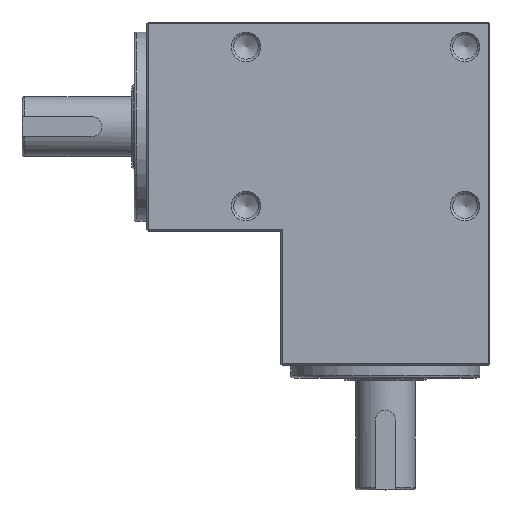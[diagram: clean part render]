
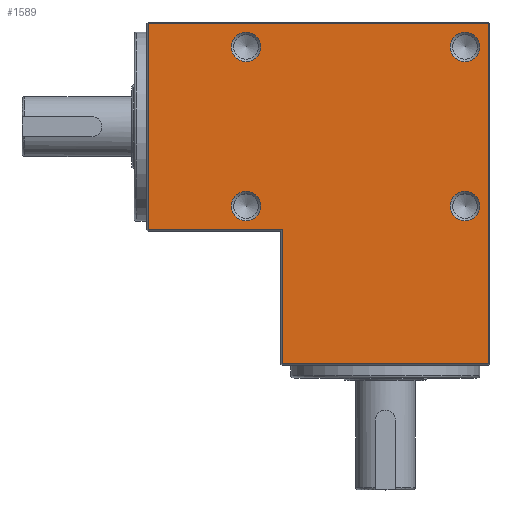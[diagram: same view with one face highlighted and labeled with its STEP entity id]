
A CAD part, top view. The second image highlights one B-rep face of the part: STEP entity #1589.
In plain terms, the highlighted planar face has unit normal (0, 0, 1).
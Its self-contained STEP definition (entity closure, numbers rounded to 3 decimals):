
#1486=CARTESIAN_POINT('',(-25.041,-16.0,42.0));
#1487=VERTEX_POINT('',#1486);
#1488=CARTESIAN_POINT('',(-28.,-16.0,42.0));
#1489=DIRECTION('',(0.0,0.0,1.0));
#1490=DIRECTION('',(-1.0,0.0,0.0));
#1491=AXIS2_PLACEMENT_3D('',#1488,#1489,#1490);
#1492=CIRCLE('',#1491,2.958);
#1493=EDGE_CURVE('',#1487,#1487,#1492,.T.);
#1498=CARTESIAN_POINT('',(0.,-34.5,42.0));
#1499=DIRECTION('',(0.0,0.0,1.0));
#1500=DIRECTION('',(1.0,0.0,0.0));
#1501=AXIS2_PLACEMENT_3D('',#1498,#1499,#1500);
#1502=PLANE('',#1501);
#1503=CARTESIAN_POINT('',(-20.7,-47.7,42.0));
#1504=VERTEX_POINT('',#1503);
#1505=CARTESIAN_POINT('',(-20.7,-20.7,42.0));
#1506=VERTEX_POINT('',#1505);
#1507=CARTESIAN_POINT('',(-20.7,-47.7,42.0));
#1508=DIRECTION('',(0.0,1.0,0.0));
#1509=VECTOR('',#1508,27.0);
#1510=LINE('',#1507,#1509);
#1511=EDGE_CURVE('',#1504,#1506,#1510,.T.);
#1512=ORIENTED_EDGE('',*,*,#1511,.F.);
#1513=CARTESIAN_POINT('',(20.7,-47.7,42.0));
#1514=VERTEX_POINT('',#1513);
#1515=CARTESIAN_POINT('',(20.7,-47.7,42.0));
#1516=DIRECTION('',(-1.0,0.0,0.0));
#1517=VECTOR('',#1516,41.4);
#1518=LINE('',#1515,#1517);
#1519=EDGE_CURVE('',#1514,#1504,#1518,.T.);
#1520=ORIENTED_EDGE('',*,*,#1519,.F.);
#1521=CARTESIAN_POINT('',(20.7,20.7,42.0));
#1522=VERTEX_POINT('',#1521);
#1523=CARTESIAN_POINT('',(20.7,20.7,42.0));
#1524=DIRECTION('',(0.0,-1.0,0.0));
#1525=VECTOR('',#1524,68.4);
#1526=LINE('',#1523,#1525);
#1527=EDGE_CURVE('',#1522,#1514,#1526,.T.);
#1528=ORIENTED_EDGE('',*,*,#1527,.F.);
#1529=CARTESIAN_POINT('',(-47.7,20.7,42.0));
#1530=VERTEX_POINT('',#1529);
#1531=CARTESIAN_POINT('',(-47.7,20.7,42.0));
#1532=DIRECTION('',(1.0,0.0,0.0));
#1533=VECTOR('',#1532,68.4);
#1534=LINE('',#1531,#1533);
#1535=EDGE_CURVE('',#1530,#1522,#1534,.T.);
#1536=ORIENTED_EDGE('',*,*,#1535,.F.);
#1537=CARTESIAN_POINT('',(-47.7,-20.7,42.0));
#1538=VERTEX_POINT('',#1537);
#1539=CARTESIAN_POINT('',(-47.7,-20.7,42.0));
#1540=DIRECTION('',(0.0,1.0,0.0));
#1541=VECTOR('',#1540,41.4);
#1542=LINE('',#1539,#1541);
#1543=EDGE_CURVE('',#1538,#1530,#1542,.T.);
#1544=ORIENTED_EDGE('',*,*,#1543,.F.);
#1545=CARTESIAN_POINT('',(-20.7,-20.7,42.0));
#1546=DIRECTION('',(-1.0,0.0,0.0));
#1547=VECTOR('',#1546,27.);
#1548=LINE('',#1545,#1547);
#1549=EDGE_CURVE('',#1506,#1538,#1548,.T.);
#1550=ORIENTED_EDGE('',*,*,#1549,.F.);
#1551=EDGE_LOOP('',(#1512,#1520,#1528,#1536,#1544,#1550));
#1552=FACE_OUTER_BOUND('',#1551,.T.);
#1553=CARTESIAN_POINT('',(18.958,-16.0,42.0));
#1554=VERTEX_POINT('',#1553);
#1555=CARTESIAN_POINT('',(16.,-16.0,42.0));
#1556=DIRECTION('',(0.0,0.0,1.0));
#1557=DIRECTION('',(-1.0,0.0,0.0));
#1558=AXIS2_PLACEMENT_3D('',#1555,#1556,#1557);
#1559=CIRCLE('',#1558,2.959);
#1560=EDGE_CURVE('',#1554,#1554,#1559,.T.);
#1561=ORIENTED_EDGE('',*,*,#1560,.F.);
#1562=EDGE_LOOP('',(#1561));
#1563=FACE_BOUND('',#1562,.T.);
#1564=CARTESIAN_POINT('',(-25.042,16.0,42.0));
#1565=VERTEX_POINT('',#1564);
#1566=CARTESIAN_POINT('',(-28.,16.0,42.0));
#1567=DIRECTION('',(0.0,0.0,1.0));
#1568=DIRECTION('',(-1.0,0.0,0.0));
#1569=AXIS2_PLACEMENT_3D('',#1566,#1567,#1568);
#1570=CIRCLE('',#1569,2.958);
#1571=EDGE_CURVE('',#1565,#1565,#1570,.T.);
#1572=ORIENTED_EDGE('',*,*,#1571,.F.);
#1573=EDGE_LOOP('',(#1572));
#1574=FACE_BOUND('',#1573,.T.);
#1575=CARTESIAN_POINT('',(18.959,16.0,42.0));
#1576=VERTEX_POINT('',#1575);
#1577=CARTESIAN_POINT('',(16.0,16.0,42.0));
#1578=DIRECTION('',(0.0,0.0,1.0));
#1579=DIRECTION('',(-1.0,0.0,0.0));
#1580=AXIS2_PLACEMENT_3D('',#1577,#1578,#1579);
#1581=CIRCLE('',#1580,2.959);
#1582=EDGE_CURVE('',#1576,#1576,#1581,.T.);
#1583=ORIENTED_EDGE('',*,*,#1582,.F.);
#1584=EDGE_LOOP('',(#1583));
#1585=FACE_BOUND('',#1584,.T.);
#1586=ORIENTED_EDGE('',*,*,#1493,.F.);
#1587=EDGE_LOOP('',(#1586));
#1588=FACE_BOUND('',#1587,.T.);
#1589=ADVANCED_FACE('',(#1552,#1563,#1574,#1585,#1588),#1502,.T.);
